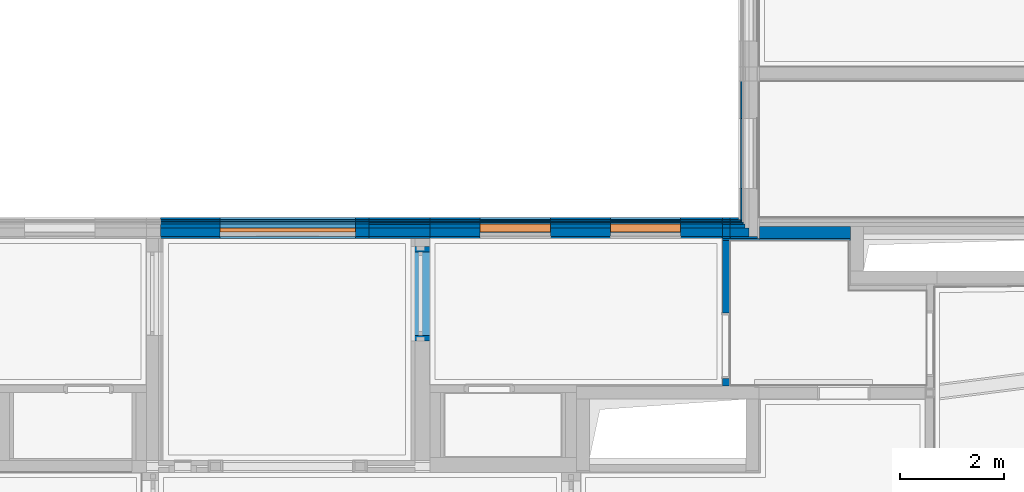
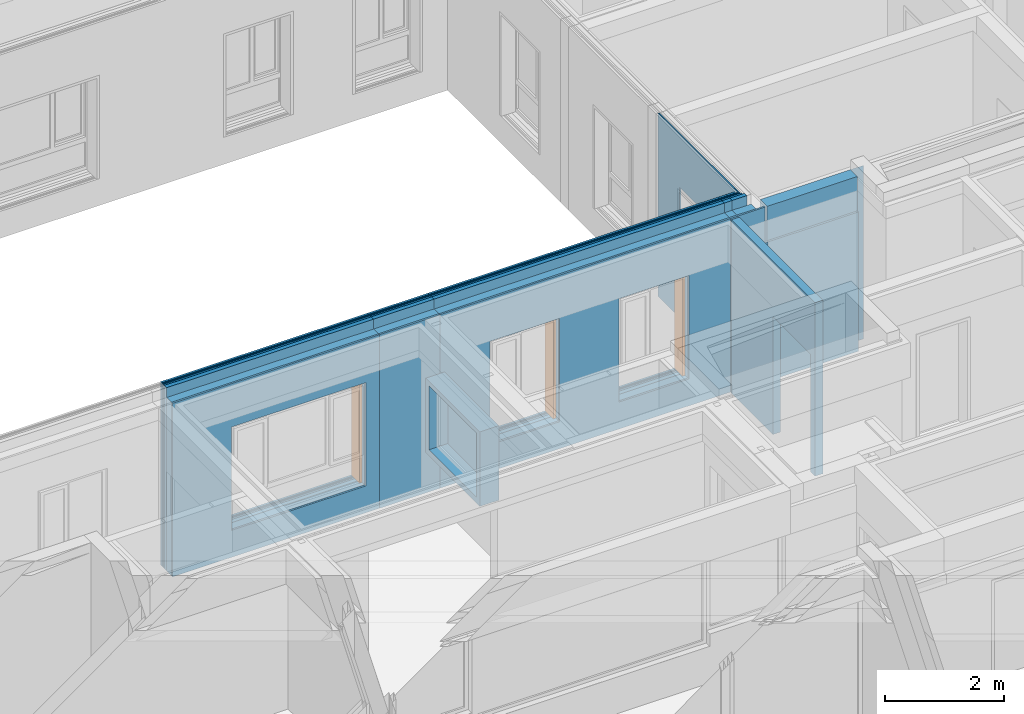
# One storey, part 31 of 222: 41 walls, 3 proxies, 24 openings.
"""IFC4 building model written with IfcOpenShell, lengths in metres."""

from ifc_helpers import new_model, entity, si_unit, converted_unit, derived_unit, frame, frame_2d, origin, origin_with_axes, place, context, subcontext, project, spatial, polyline, rectangle, outline, extrude, faceted_brep, material, element, fill, save


model = new_model("IFC4")

# Units and contexts
model_context = context("Model", 3, precision=1e-05, world=origin())
body_context = subcontext(model_context, "Body", "Model", "MODEL_VIEW")
ifc_project = project(units=[si_unit("LENGTHUNIT", "METRE"), si_unit("AREAUNIT", "SQUARE_METRE"), si_unit("VOLUMEUNIT", "CUBIC_METRE"), si_unit("MASSUNIT", "GRAM", prefix="KILO"), converted_unit("PLANEANGLEUNIT", "DEGREE", entity("IfcPlaneAngleMeasure", 0.0174532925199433), si_unit("PLANEANGLEUNIT", "RADIAN"), dimensions=[0, 0, 0, 0, 0, 0, 0]), derived_unit("THERMALTRANSMITTANCEUNIT", [(si_unit("POWERUNIT", "WATT"), 1), (si_unit("THERMODYNAMICTEMPERATUREUNIT", "KELVIN"), -1), (si_unit("LENGTHUNIT", "METRE"), -2)]), derived_unit("VOLUMETRICFLOWRATEUNIT", [(si_unit("LENGTHUNIT", "METRE"), 3), (converted_unit("TIMEUNIT", "hour", entity("IfcTimeMeasure", 3600.0), si_unit("TIMEUNIT", "SECOND"), dimensions=[0, 0, 1, 0, 0, 0, 0]), -1), (si_unit("LENGTHUNIT", "METRE"), -1)])], contexts=[model_context])

# Site, building, storey
site_placement = place(None, origin())
site = spatial("IfcSite", under=ifc_project, at=site_placement, Name="Psychiatrie Neubau Wunstorf", CompositionType="ELEMENT")
building_placement = place(site_placement, origin())
building = spatial("IfcBuilding", under=site, at=building_placement, Name="Neubau H2 Stationsgebäude", CompositionType="ELEMENT")
storey_placement = place(building_placement, frame((0.0, 0.0, 3.6)))
storey = spatial("IfcBuildingStorey", under=building, at=storey_placement, Name="H2 Ebene +1", CompositionType="ELEMENT", Elevation=3.6)

# Wall, opening
ifc_material_1 = material(Name="WA-TL")
wall_1_placement = place(storey_placement, frame((61.725000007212, 10.4499996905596, 0.0), z_axis=(0.0, 0.0, 1.0), x_axis=(2.70733614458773e-15, 1.0, 0.0)))
wall_1 = element("IfcWall", 1, at=wall_1_placement, inside=storey, material=ifc_material_1, context=body_context, shape_type="SweptSolid", body=[
    extrude(rectangle(XDim=2.68749694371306, YDim=0.024, at=frame_2d((1.34374847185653, 0.012), x_axis=(1.0, 0.0))), origin_with_axes(), (0.0, 0.0, 1.0), 3.75),
])
opening_1_placement = place(wall_1_placement, frame((1.96999694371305, 0.0239999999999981, 0.55), z_axis=(0.0, -1.0, 0.0), x_axis=(0.0, 0.0, 1.0)))
element("IfcOpeningElement", 2, at=opening_1_placement, cuts=wall_1, Name="Fensteröffnung", ObjectType="Opening", context=body_context, shape_type="SweptSolid", body=[
    extrude(outline(polyline([(2.115, 1.35), (2.115, 0.0), (0.0, 0.0), (0.0, 1.35), (2.115, 1.35)])), origin_with_axes(), (0.0, 0.0, 1.0), 0.024),
])

# Wall, openings
ifc_material_2 = material(Name="WA-LB")
wall_2_placement = place(storey_placement, frame((55.7325000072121, 10.1139996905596, 0.0)))
wall_2 = element("IfcWall", 3, at=wall_2_placement, inside=storey, material=ifc_material_2, context=body_context, shape_type="SweptSolid", body=[
    extrude(rectangle(XDim=5.61749999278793, YDim=0.036, at=frame_2d((2.80874999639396, 0.018), x_axis=(1.0, 0.0))), origin_with_axes(), (0.0, 0.0, 1.0), 3.55),
])
opening_2_placement = place(wall_2_placement, frame((2.31619999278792, 0.036, 0.55), z_axis=(0.0, -1.0, 0.0), x_axis=(0.0, 0.0, 1.0)))
element("IfcOpeningElement", 4, at=opening_2_placement, cuts=wall_2, Name="Fensteröffnung", ObjectType="Opening", context=body_context, shape_type="SweptSolid", body=[
    extrude(outline(polyline([(2.115, 1.35), (2.115, 0.0), (0.0, 0.0), (0.0, 1.35), (2.115, 1.35)])), origin_with_axes(), (0.0, 0.0, 1.0), 0.036),
])
opening_3_placement = place(wall_2_placement, frame((4.81619999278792, 0.036, 0.55), z_axis=(0.0, -1.0, 0.0), x_axis=(0.0, 0.0, 1.0)))
element("IfcOpeningElement", 5, at=opening_3_placement, cuts=wall_2, Name="Fensteröffnung", ObjectType="Opening", context=body_context, shape_type="SweptSolid", body=[
    extrude(outline(polyline([(2.115, 1.35), (2.115, 0.0), (0.0, 0.0), (0.0, 1.35), (2.115, 1.35)])), origin_with_axes(), (0.0, 0.0, 1.0), 0.036),
])

ifc_material_3 = material(Name="WA-DL")
wall_3_placement = place(storey_placement, frame((55.7325000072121, 10.1499996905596, 0.0)))
wall_3 = element("IfcWall", 6, at=wall_3_placement, inside=storey, material=ifc_material_3, context=body_context, shape_type="SweptSolid", body=[
    extrude(rectangle(XDim=5.61749999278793, YDim=0.16, at=frame_2d((2.80874999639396, 0.08), x_axis=(1.0, 0.0))), origin_with_axes(), (0.0, 0.0, 1.0), 3.55),
])
opening_4_placement = place(wall_3_placement, frame((2.31619999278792, 0.16, 0.55), z_axis=(0.0, -1.0, 0.0), x_axis=(0.0, 0.0, 1.0)))
element("IfcOpeningElement", 7, at=opening_4_placement, cuts=wall_3, Name="Fensteröffnung", ObjectType="Opening", context=body_context, shape_type="SweptSolid", body=[
    extrude(outline(polyline([(2.115, 1.35), (2.115, 0.0), (0.0, 0.0), (0.0, 1.35), (2.115, 1.35)])), origin_with_axes(), (0.0, 0.0, 1.0), 0.16),
])
opening_5_placement = place(wall_3_placement, frame((4.81619999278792, 0.16, 0.55), z_axis=(0.0, -1.0, 0.0), x_axis=(0.0, 0.0, 1.0)))
element("IfcOpeningElement", 8, at=opening_5_placement, cuts=wall_3, Name="Fensteröffnung", ObjectType="Opening", context=body_context, shape_type="SweptSolid", body=[
    extrude(outline(polyline([(2.115, 1.35), (2.115, 0.0), (0.0, 0.0), (0.0, 1.35), (2.115, 1.35)])), origin_with_axes(), (0.0, 0.0, 1.0), 0.16),
])

ifc_material_4 = material(Name="WA-DL")
wall_4_placement = place(storey_placement, frame((55.7325000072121, 10.3099996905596, 0.0)))
wall_4 = element("IfcWall", 9, at=wall_4_placement, inside=storey, material=ifc_material_4, context=body_context, shape_type="SweptSolid", body=[
    extrude(rectangle(XDim=5.61749999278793, YDim=0.08, at=frame_2d((2.80874999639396, 0.04), x_axis=(1.0, 0.0))), origin_with_axes(), (0.0, 0.0, 1.0), 3.75),
])
opening_6_placement = place(wall_4_placement, frame((2.31619999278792, 0.08, 0.55), z_axis=(0.0, -1.0, 0.0), x_axis=(0.0, 0.0, 1.0)))
element("IfcOpeningElement", 10, at=opening_6_placement, cuts=wall_4, Name="Fensteröffnung", ObjectType="Opening", context=body_context, shape_type="SweptSolid", body=[
    extrude(outline(polyline([(2.115, 1.35), (2.115, 0.0), (0.0, 0.0), (0.0, 1.35), (2.115, 1.35)])), origin_with_axes(), (0.0, 0.0, 1.0), 0.08),
])
opening_7_placement = place(wall_4_placement, frame((4.81619999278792, 0.08, 0.55), z_axis=(0.0, -1.0, 0.0), x_axis=(0.0, 0.0, 1.0)))
element("IfcOpeningElement", 11, at=opening_7_placement, cuts=wall_4, Name="Fensteröffnung", ObjectType="Opening", context=body_context, shape_type="SweptSolid", body=[
    extrude(outline(polyline([(2.115, 1.35), (2.115, 0.0), (0.0, 0.0), (0.0, 1.35), (2.115, 1.35)])), origin_with_axes(), (0.0, 0.0, 1.0), 0.08),
])

ifc_material_5 = material(Name="WA-LB")
wall_5_placement = place(storey_placement, frame((55.7325000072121, 10.3899996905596, 0.0)))
wall_5 = element("IfcWall", 12, at=wall_5_placement, inside=storey, material=ifc_material_5, context=body_context, shape_type="SweptSolid", body=[
    extrude(rectangle(XDim=5.61749999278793, YDim=0.036, at=frame_2d((2.80874999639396, 0.018), x_axis=(1.0, 0.0))), origin_with_axes(), (0.0, 0.0, 1.0), 3.75),
])
opening_8_placement = place(wall_5_placement, frame((2.31619999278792, 0.036, 0.55), z_axis=(0.0, -1.0, 0.0), x_axis=(0.0, 0.0, 1.0)))
element("IfcOpeningElement", 13, at=opening_8_placement, cuts=wall_5, Name="Fensteröffnung", ObjectType="Opening", context=body_context, shape_type="SweptSolid", body=[
    extrude(outline(polyline([(2.115, 1.35), (2.115, 0.0), (0.0, 0.0), (0.0, 1.35), (2.115, 1.35)])), origin_with_axes(), (0.0, 0.0, 1.0), 0.036),
])
opening_9_placement = place(wall_5_placement, frame((4.81619999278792, 0.036, 0.55), z_axis=(0.0, -1.0, 0.0), x_axis=(0.0, 0.0, 1.0)))
element("IfcOpeningElement", 14, at=opening_9_placement, cuts=wall_5, Name="Fensteröffnung", ObjectType="Opening", context=body_context, shape_type="SweptSolid", body=[
    extrude(outline(polyline([(2.115, 1.35), (2.115, 0.0), (0.0, 0.0), (0.0, 1.35), (2.115, 1.35)])), origin_with_axes(), (0.0, 0.0, 1.0), 0.036),
])

ifc_material_6 = material(Name="WA-KL")
wall_6_placement = place(storey_placement, frame((55.7325000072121, 10.4259996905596, 0.0)))
wall_6 = element("IfcWall", 15, at=wall_6_placement, inside=storey, material=ifc_material_6, context=body_context, shape_type="SweptSolid", body=[
    extrude(rectangle(XDim=5.61749999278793, YDim=0.024, at=frame_2d((2.80874999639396, 0.012), x_axis=(1.0, 0.0))), origin_with_axes(), (0.0, 0.0, 1.0), 3.75),
])
opening_10_placement = place(wall_6_placement, frame((2.31619999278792, 0.024, 0.55), z_axis=(0.0, -1.0, 0.0), x_axis=(0.0, 0.0, 1.0)))
element("IfcOpeningElement", 16, at=opening_10_placement, cuts=wall_6, Name="Fensteröffnung", ObjectType="Opening", context=body_context, shape_type="SweptSolid", body=[
    extrude(outline(polyline([(2.115, 1.35), (2.115, 0.0), (0.0, 0.0), (0.0, 1.35), (2.115, 1.35)])), origin_with_axes(), (0.0, 0.0, 1.0), 0.024),
])
opening_11_placement = place(wall_6_placement, frame((4.81619999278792, 0.024, 0.55), z_axis=(0.0, -1.0, 0.0), x_axis=(0.0, 0.0, 1.0)))
element("IfcOpeningElement", 17, at=opening_11_placement, cuts=wall_6, Name="Fensteröffnung", ObjectType="Opening", context=body_context, shape_type="SweptSolid", body=[
    extrude(outline(polyline([(2.115, 1.35), (2.115, 0.0), (0.0, 0.0), (0.0, 1.35), (2.115, 1.35)])), origin_with_axes(), (0.0, 0.0, 1.0), 0.024),
])

ifc_material_7 = material(Name="WA-TL")
wall_7_placement = place(storey_placement, frame((55.7325000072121, 10.4499996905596, 0.0)))
wall_7 = element("IfcWall", 18, at=wall_7_placement, inside=storey, material=ifc_material_7, context=body_context, shape_type="SweptSolid", body=[
    extrude(rectangle(XDim=5.61749999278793, YDim=0.024, at=frame_2d((2.80874999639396, 0.012), x_axis=(1.0, 0.0))), origin_with_axes(), (0.0, 0.0, 1.0), 3.75),
])
opening_12_placement = place(wall_7_placement, frame((2.31619999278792, 0.024, 0.55), z_axis=(0.0, -1.0, 0.0), x_axis=(0.0, 0.0, 1.0)))
element("IfcOpeningElement", 19, at=opening_12_placement, cuts=wall_7, Name="Fensteröffnung", ObjectType="Opening", context=body_context, shape_type="SweptSolid", body=[
    extrude(outline(polyline([(2.115, 1.35), (2.115, 0.0), (0.0, 0.0), (0.0, 1.35), (2.115, 1.35)])), origin_with_axes(), (0.0, 0.0, 1.0), 0.024),
])
opening_13_placement = place(wall_7_placement, frame((4.81619999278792, 0.024, 0.55), z_axis=(0.0, -1.0, 0.0), x_axis=(0.0, 0.0, 1.0)))
element("IfcOpeningElement", 20, at=opening_13_placement, cuts=wall_7, Name="Fensteröffnung", ObjectType="Opening", context=body_context, shape_type="SweptSolid", body=[
    extrude(outline(polyline([(2.115, 1.35), (2.115, 0.0), (0.0, 0.0), (0.0, 1.35), (2.115, 1.35)])), origin_with_axes(), (0.0, 0.0, 1.0), 0.024),
])

# Wall, openings, proxies
ifc_material_8 = material(Name="WA-HS")
wall_8_placement = place(storey_placement, frame((55.7325000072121, 10.4739996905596, 0.0)))
wall_8 = element("IfcWall", 21, at=wall_8_placement, inside=storey, material=ifc_material_8, context=body_context, shape_type="SweptSolid", body=[
    extrude(rectangle(XDim=5.61749999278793, YDim=0.042, at=frame_2d((2.80874999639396, 0.021), x_axis=(1.0, 0.0))), origin_with_axes(), (0.0, 0.0, 1.0), 3.75),
])
opening_14_placement = place(wall_8_placement, frame((2.31619999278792, 0.042, 0.55), z_axis=(0.0, -1.0, 0.0), x_axis=(0.0, 0.0, 1.0)))
opening_14 = element("IfcOpeningElement", 22, at=opening_14_placement, cuts=wall_8, Name="Fensteröffnung", ObjectType="Opening", context=body_context, shape_type="SweptSolid", body=[
    extrude(outline(polyline([(2.115, 1.35), (2.115, 0.0), (0.0, 0.0), (0.0, 1.35), (2.115, 1.35)])), origin_with_axes(), (0.0, 0.0, 1.0), 0.042),
])
opening_15_placement = place(wall_8_placement, frame((4.81619999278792, 0.042, 0.55), z_axis=(0.0, -1.0, 0.0), x_axis=(0.0, 0.0, 1.0)))
opening_15 = element("IfcOpeningElement", 23, at=opening_15_placement, cuts=wall_8, Name="Fensteröffnung", ObjectType="Opening", context=body_context, shape_type="SweptSolid", body=[
    extrude(outline(polyline([(2.115, 1.35), (2.115, 0.0), (0.0, 0.0), (0.0, 1.35), (2.115, 1.35)])), origin_with_axes(), (0.0, 0.0, 1.0), 0.042),
])
ifc_material_9 = material(Name="WA-HS")
proxy_1_placement = place(opening_14_placement, frame((0.0, 1.35, 0.275)))
proxy_1 = element("IfcBuildingElementProxy", 24, at=proxy_1_placement, inside=storey, material=ifc_material_9, context=body_context, shape_type="Brep", body=[
    faceted_brep([(0.0, 0.0, 0.0), (0.0, 0.0, -0.275), (2.115, 0.0, -0.275), (2.115, 0.0, 0.0), (2.115, -1.35, -0.275), (2.115, -1.35, 0.0), (0.0, -0.05, -0.275), (0.0, -0.05, 0.0), (0.0, -1.35, 0.0), (0.0, -1.3, 0.0), (2.065, -1.3, 0.0), (2.065, -0.05, 0.0), (2.065, -0.05, -0.275), (2.065, -1.3, -0.275), (0.0, -1.3, -0.275), (0.0, -1.35, -0.275)], [[[0, 1, 2, 3]], [[2, 4, 5, 3]], [[6, 1, 0, 7]], [[7, 0, 3, 5, 8, 9, 10, 11]], [[1, 6, 12, 13, 14, 15, 4, 2]], [[6, 7, 11, 12]], [[15, 8, 5, 4]], [[15, 14, 9, 8]], [[9, 14, 13, 10]], [[10, 13, 12, 11]]], orient=[[False], [False], [False], [False], [False], [False], [False], [False], [False], [False]]),
])
fill(opening_14, proxy_1)
ifc_material_10 = material(Name="WA-HS")
proxy_2_placement = place(opening_15_placement, frame((0.0, 1.35, 0.275)))
proxy_2 = element("IfcBuildingElementProxy", 25, at=proxy_2_placement, inside=storey, material=ifc_material_10, context=body_context, shape_type="Brep", body=[
    faceted_brep([(0.0, 0.0, 0.0), (0.0, 0.0, -0.275), (2.115, 0.0, -0.275), (2.115, 0.0, 0.0), (2.115, -1.35, -0.275), (2.115, -1.35, 0.0), (0.0, -0.05, -0.275), (0.0, -0.05, 0.0), (0.0, -1.35, 0.0), (0.0, -1.3, 0.0), (2.065, -1.3, 0.0), (2.065, -0.05, 0.0), (2.065, -0.05, -0.275), (2.065, -1.3, -0.275), (0.0, -1.3, -0.275), (0.0, -1.35, -0.275)], [[[0, 1, 2, 3]], [[2, 4, 5, 3]], [[6, 1, 0, 7]], [[7, 0, 3, 5, 8, 9, 10, 11]], [[1, 6, 12, 13, 14, 15, 4, 2]], [[6, 7, 11, 12]], [[15, 8, 5, 4]], [[15, 14, 9, 8]], [[9, 14, 13, 10]], [[10, 13, 12, 11]]], orient=[[False], [False], [False], [False], [False], [False], [False], [False], [False], [False]]),
])
fill(opening_15, proxy_2)

# Walls
ifc_material_11 = material(Name="WA-LB")
wall_9_placement = place(storey_placement, frame((61.3500000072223, 10.1139996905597, 0.0), z_axis=(0.0, 0.0, 1.0), x_axis=(1.0, -3.63797880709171e-14, 0.0)))
element("IfcWall", 26, at=wall_9_placement, inside=storey, material=ifc_material_11, Name="2x Gipsfaserplatte", context=body_context, shape_type="SweptSolid", body=[
    extrude(rectangle(XDim=0.15, YDim=0.036, at=frame_2d((0.075, 0.018), x_axis=(1.0, 0.0))), origin_with_axes(), (0.0, 0.0, 1.0), 3.55),
])
ifc_material_12 = material(Name="WA-DL")
wall_10_placement = place(storey_placement, frame((61.3500000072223, 10.1499996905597, 0.0), z_axis=(0.0, 0.0, 1.0), x_axis=(1.0, -3.63797880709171e-14, 0.0)))
element("IfcWall", 27, at=wall_10_placement, inside=storey, material=ifc_material_12, Name="Holzständer + Zwischendämmung", context=body_context, shape_type="SweptSolid", body=[
    extrude(rectangle(XDim=0.15, YDim=0.16, at=frame_2d((0.075, 0.08), x_axis=(1.0, 0.0))), origin_with_axes(), (0.0, 0.0, 1.0), 3.55),
])
ifc_material_13 = material(Name="WA-DL")
wall_11_placement = place(storey_placement, frame((61.3500000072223, 10.3099996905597, 0.0), z_axis=(0.0, 0.0, 1.0), x_axis=(1.0, -3.63797880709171e-14, 0.0)))
element("IfcWall", 28, at=wall_11_placement, inside=storey, material=ifc_material_13, Name="Staffel + Zwischendämmung", context=body_context, shape_type="SweptSolid", body=[
    extrude(rectangle(XDim=0.15, YDim=0.08, at=frame_2d((0.075, 0.04), x_axis=(1.0, 0.0))), origin_with_axes(), (0.0, 0.0, 1.0), 3.75),
])
ifc_material_14 = material(Name="WA-LB")
wall_12_placement = place(storey_placement, frame((61.3500000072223, 10.3899996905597, 0.0), z_axis=(0.0, 0.0, 1.0), x_axis=(1.0, -3.63797880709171e-14, 0.0)))
element("IfcWall", 29, at=wall_12_placement, inside=storey, material=ifc_material_14, context=body_context, shape_type="SweptSolid", body=[
    extrude(rectangle(XDim=0.15, YDim=0.036, at=frame_2d((0.075, 0.018), x_axis=(1.0, 0.0))), origin_with_axes(), (0.0, 0.0, 1.0), 3.75),
])
ifc_material_15 = material(Name="WA-KL")
wall_13_placement = place(storey_placement, frame((61.3500000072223, 10.4259996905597, 0.0), z_axis=(0.0, 0.0, 1.0), x_axis=(1.0, -3.63797880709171e-14, 0.0)))
element("IfcWall", 30, at=wall_13_placement, inside=storey, material=ifc_material_15, Name="Konterlattung", context=body_context, shape_type="SweptSolid", body=[
    extrude(rectangle(XDim=0.15, YDim=0.024, at=frame_2d((0.075, 0.012), x_axis=(1.0, 0.0))), origin_with_axes(), (0.0, 0.0, 1.0), 3.75),
])
ifc_material_16 = material(Name="WA-TL")
wall_14_placement = place(storey_placement, frame((61.3500000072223, 10.4499996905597, 0.0), z_axis=(0.0, 0.0, 1.0), x_axis=(1.0, -3.63797880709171e-14, 0.0)))
element("IfcWall", 31, at=wall_14_placement, inside=storey, material=ifc_material_16, Name="Traglattung", context=body_context, shape_type="SweptSolid", body=[
    extrude(rectangle(XDim=0.15, YDim=0.024, at=frame_2d((0.075, 0.012), x_axis=(1.0, 0.0))), origin_with_axes(), (0.0, 0.0, 1.0), 3.75),
])
ifc_material_17 = material(Name="WA-HS")
wall_15_placement = place(storey_placement, frame((61.3500000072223, 10.4739996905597, 0.0), z_axis=(0.0, 0.0, 1.0), x_axis=(1.0, -3.63797880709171e-14, 0.0)))
element("IfcWall", 32, at=wall_15_placement, inside=storey, material=ifc_material_17, Name="Holzschindel", context=body_context, shape_type="SweptSolid", body=[
    extrude(rectangle(XDim=0.15, YDim=0.042, at=frame_2d((0.075, 0.021), x_axis=(1.0, 0.0))), origin_with_axes(), (0.0, 0.0, 1.0), 3.75),
])

# Wall, opening
ifc_material_18 = material(Name="WA-LB")
wall_16_placement = place(storey_placement, frame((50.5580000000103, 10.1139996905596, 0.0)))
wall_16 = element("IfcWall", 33, at=wall_16_placement, inside=storey, material=ifc_material_18, context=body_context, shape_type="SweptSolid", body=[
    extrude(rectangle(XDim=4.00450000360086, YDim=0.036, at=frame_2d((2.00225000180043, 0.018), x_axis=(1.0, 0.0))), origin_with_axes(), (0.0, 0.0, 1.0), 3.55),
])
opening_16_placement = place(wall_16_placement, frame((3.74067714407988, 0.036, 0.55), z_axis=(0.0, -1.0, 0.0), x_axis=(0.0, 0.0, 1.0)))
element("IfcOpeningElement", 34, at=opening_16_placement, cuts=wall_16, Name="Fensteröffnung", ObjectType="Opening", context=body_context, shape_type="SweptSolid", body=[
    extrude(outline(polyline([(2.115, 2.6), (2.115, 0.0), (0.0, 0.0), (0.0, 2.6), (2.115, 2.6)])), origin_with_axes(), (0.0, 0.0, 1.0), 0.036),
])

ifc_material_19 = material(Name="WA-DL")
wall_17_placement = place(storey_placement, frame((50.5580000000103, 10.1499996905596, 0.0)))
wall_17 = element("IfcWall", 35, at=wall_17_placement, inside=storey, material=ifc_material_19, context=body_context, shape_type="SweptSolid", body=[
    extrude(rectangle(XDim=4.00450000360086, YDim=0.16, at=frame_2d((2.00225000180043, 0.08), x_axis=(1.0, 0.0))), origin_with_axes(), (0.0, 0.0, 1.0), 3.55),
])
opening_17_placement = place(wall_17_placement, frame((3.74067714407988, 0.16, 0.55), z_axis=(0.0, -1.0, 0.0), x_axis=(0.0, 0.0, 1.0)))
element("IfcOpeningElement", 36, at=opening_17_placement, cuts=wall_17, Name="Fensteröffnung", ObjectType="Opening", context=body_context, shape_type="SweptSolid", body=[
    extrude(outline(polyline([(2.115, 2.6), (2.115, 0.0), (0.0, 0.0), (0.0, 2.6), (2.115, 2.6)])), origin_with_axes(), (0.0, 0.0, 1.0), 0.16),
])

ifc_material_20 = material(Name="WA-DL")
wall_18_placement = place(storey_placement, frame((50.5580000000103, 10.3099996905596, 0.0)))
wall_18 = element("IfcWall", 37, at=wall_18_placement, inside=storey, material=ifc_material_20, context=body_context, shape_type="SweptSolid", body=[
    extrude(rectangle(XDim=4.00450000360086, YDim=0.08, at=frame_2d((2.00225000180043, 0.04), x_axis=(1.0, 0.0))), origin_with_axes(), (0.0, 0.0, 1.0), 3.75),
])
opening_18_placement = place(wall_18_placement, frame((3.74067714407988, 0.08, 0.55), z_axis=(0.0, -1.0, 0.0), x_axis=(0.0, 0.0, 1.0)))
element("IfcOpeningElement", 38, at=opening_18_placement, cuts=wall_18, Name="Fensteröffnung", ObjectType="Opening", context=body_context, shape_type="SweptSolid", body=[
    extrude(outline(polyline([(2.115, 2.6), (2.115, 0.0), (0.0, 0.0), (0.0, 2.6), (2.115, 2.6)])), origin_with_axes(), (0.0, 0.0, 1.0), 0.08),
])

ifc_material_21 = material(Name="WA-LB")
wall_19_placement = place(storey_placement, frame((50.5580000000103, 10.3899996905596, 0.0)))
wall_19 = element("IfcWall", 39, at=wall_19_placement, inside=storey, material=ifc_material_21, context=body_context, shape_type="SweptSolid", body=[
    extrude(rectangle(XDim=4.00450000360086, YDim=0.036, at=frame_2d((2.00225000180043, 0.018), x_axis=(1.0, 0.0))), origin_with_axes(), (0.0, 0.0, 1.0), 3.75),
])
opening_19_placement = place(wall_19_placement, frame((3.74067714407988, 0.036, 0.55), z_axis=(0.0, -1.0, 0.0), x_axis=(0.0, 0.0, 1.0)))
element("IfcOpeningElement", 40, at=opening_19_placement, cuts=wall_19, Name="Fensteröffnung", ObjectType="Opening", context=body_context, shape_type="SweptSolid", body=[
    extrude(outline(polyline([(2.115, 2.6), (2.115, 0.0), (0.0, 0.0), (0.0, 2.6), (2.115, 2.6)])), origin_with_axes(), (0.0, 0.0, 1.0), 0.036),
])

ifc_material_22 = material(Name="WA-KL")
wall_20_placement = place(storey_placement, frame((50.5580000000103, 10.4259996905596, 0.0)))
wall_20 = element("IfcWall", 41, at=wall_20_placement, inside=storey, material=ifc_material_22, context=body_context, shape_type="SweptSolid", body=[
    extrude(rectangle(XDim=4.00450000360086, YDim=0.024, at=frame_2d((2.00225000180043, 0.012), x_axis=(1.0, 0.0))), origin_with_axes(), (0.0, 0.0, 1.0), 3.75),
])
opening_20_placement = place(wall_20_placement, frame((3.74067714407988, 0.024, 0.55), z_axis=(0.0, -1.0, 0.0), x_axis=(0.0, 0.0, 1.0)))
element("IfcOpeningElement", 42, at=opening_20_placement, cuts=wall_20, Name="Fensteröffnung", ObjectType="Opening", context=body_context, shape_type="SweptSolid", body=[
    extrude(outline(polyline([(2.115, 2.6), (2.115, 0.0), (0.0, 0.0), (0.0, 2.6), (2.115, 2.6)])), origin_with_axes(), (0.0, 0.0, 1.0), 0.024),
])

ifc_material_23 = material(Name="WA-TL")
wall_21_placement = place(storey_placement, frame((50.5580000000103, 10.4499996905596, 0.0)))
wall_21 = element("IfcWall", 43, at=wall_21_placement, inside=storey, material=ifc_material_23, context=body_context, shape_type="SweptSolid", body=[
    extrude(rectangle(XDim=4.00450000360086, YDim=0.024, at=frame_2d((2.00225000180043, 0.012), x_axis=(1.0, 0.0))), origin_with_axes(), (0.0, 0.0, 1.0), 3.75),
])
opening_21_placement = place(wall_21_placement, frame((3.74067714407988, 0.024, 0.55), z_axis=(0.0, -1.0, 0.0), x_axis=(0.0, 0.0, 1.0)))
element("IfcOpeningElement", 44, at=opening_21_placement, cuts=wall_21, Name="Fensteröffnung", ObjectType="Opening", context=body_context, shape_type="SweptSolid", body=[
    extrude(outline(polyline([(2.115, 2.6), (2.115, 0.0), (0.0, 0.0), (0.0, 2.6), (2.115, 2.6)])), origin_with_axes(), (0.0, 0.0, 1.0), 0.024),
])

# Wall, opening, proxy
ifc_material_24 = material(Name="WA-HS")
wall_22_placement = place(storey_placement, frame((50.5580000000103, 10.4739996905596, 0.0)))
wall_22 = element("IfcWall", 45, at=wall_22_placement, inside=storey, material=ifc_material_24, context=body_context, shape_type="SweptSolid", body=[
    extrude(rectangle(XDim=4.00450000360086, YDim=0.042, at=frame_2d((2.00225000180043, 0.021), x_axis=(1.0, 0.0))), origin_with_axes(), (0.0, 0.0, 1.0), 3.75),
])
opening_22_placement = place(wall_22_placement, frame((3.74067714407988, 0.042, 0.55), z_axis=(0.0, -1.0, 0.0), x_axis=(0.0, 0.0, 1.0)))
opening_22 = element("IfcOpeningElement", 46, at=opening_22_placement, cuts=wall_22, Name="Fensteröffnung", ObjectType="Opening", context=body_context, shape_type="SweptSolid", body=[
    extrude(outline(polyline([(2.115, 2.6), (2.115, 0.0), (0.0, 0.0), (0.0, 2.6), (2.115, 2.6)])), origin_with_axes(), (0.0, 0.0, 1.0), 0.042),
])
ifc_material_25 = material(Name="WA-HS")
proxy_3_placement = place(opening_22_placement, frame((0.0, 2.6, 0.275)))
proxy_3 = element("IfcBuildingElementProxy", 47, at=proxy_3_placement, inside=storey, material=ifc_material_25, context=body_context, shape_type="Brep", body=[
    faceted_brep([(0.0, 0.0, 0.0), (0.0, 0.0, -0.275), (2.115, 0.0, -0.275), (2.115, 0.0, 0.0), (2.115, -2.6, -0.275), (2.115, -2.6, 0.0), (0.0, -0.05, -0.275), (0.0, -0.05, 0.0), (0.0, -2.6, 0.0), (0.0, -2.55, 0.0), (2.065, -2.55, 0.0), (2.065, -0.05, 0.0), (2.065, -0.05, -0.275), (2.065, -2.55, -0.275), (0.0, -2.55, -0.275), (0.0, -2.6, -0.275)], [[[0, 1, 2, 3]], [[2, 4, 5, 3]], [[6, 1, 0, 7]], [[7, 0, 3, 5, 8, 9, 10, 11]], [[1, 6, 12, 13, 14, 15, 4, 2]], [[6, 7, 11, 12]], [[15, 8, 5, 4]], [[15, 14, 9, 8]], [[9, 14, 13, 10]], [[10, 13, 12, 11]]], orient=[[False], [False], [False], [False], [False], [False], [False], [False], [False], [False]]),
])
fill(opening_22, proxy_3)

# Walls
ifc_material_26 = material(Name="WA-LB")
wall_23_placement = place(storey_placement, frame((61.5000000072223, 10.1139996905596, 0.0)))
element("IfcWall", 48, at=wall_23_placement, inside=storey, material=ifc_material_26, context=body_context, shape_type="SweptSolid", body=[
    extrude(rectangle(XDim=0.524999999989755, YDim=0.036, at=frame_2d((0.262499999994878, 0.018), x_axis=(1.0, 0.0))), origin_with_axes(), (0.0, 0.0, 1.0), 3.55),
])
ifc_material_27 = material(Name="WA-DL")
wall_24_placement = place(storey_placement, frame((61.5000000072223, 10.1499996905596, 0.0)))
element("IfcWall", 49, at=wall_24_placement, inside=storey, material=ifc_material_27, context=body_context, shape_type="SweptSolid", body=[
    extrude(rectangle(XDim=0.364999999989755, YDim=0.16, at=frame_2d((0.182499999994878, 0.08), x_axis=(1.0, 0.0))), origin_with_axes(), (0.0, 0.0, 1.0), 3.55),
])
ifc_material_28 = material(Name="WA-DL")
wall_25_placement = place(storey_placement, frame((61.5000000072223, 10.3099996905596, 0.0)))
element("IfcWall", 50, at=wall_25_placement, inside=storey, material=ifc_material_28, context=body_context, shape_type="SweptSolid", body=[
    extrude(rectangle(XDim=0.284999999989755, YDim=0.08, at=frame_2d((0.142499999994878, 0.04), x_axis=(1.0, 0.0))), origin_with_axes(), (0.0, 0.0, 1.0), 3.75),
])
ifc_material_29 = material(Name="WA-LB")
wall_26_placement = place(storey_placement, frame((61.5000000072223, 10.3899996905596, 0.0)))
element("IfcWall", 51, at=wall_26_placement, inside=storey, material=ifc_material_29, context=body_context, shape_type="SweptSolid", body=[
    extrude(rectangle(XDim=0.248999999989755, YDim=0.036, at=frame_2d((0.124499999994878, 0.018), x_axis=(1.0, 0.0))), origin_with_axes(), (0.0, 0.0, 1.0), 3.75),
])
ifc_material_30 = material(Name="WA-KL")
wall_27_placement = place(storey_placement, frame((61.5000000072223, 10.4259996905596, 0.0)))
element("IfcWall", 52, at=wall_27_placement, inside=storey, material=ifc_material_30, context=body_context, shape_type="SweptSolid", body=[
    extrude(rectangle(XDim=0.224999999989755, YDim=0.024, at=frame_2d((0.112499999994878, 0.012), x_axis=(1.0, 0.0))), origin_with_axes(), (0.0, 0.0, 1.0), 3.75),
])
ifc_material_31 = material(Name="WA-TL")
wall_28_placement = place(storey_placement, frame((61.5000000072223, 10.4499996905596, 0.0)))
element("IfcWall", 53, at=wall_28_placement, inside=storey, material=ifc_material_31, context=body_context, shape_type="SweptSolid", body=[
    extrude(rectangle(XDim=0.200999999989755, YDim=0.024, at=frame_2d((0.100499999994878, 0.012), x_axis=(1.0, 0.0))), origin_with_axes(), (0.0, 0.0, 1.0), 3.75),
])
ifc_material_32 = material(Name="WA-HS")
wall_29_placement = place(storey_placement, frame((61.5000000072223, 10.4739996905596, 0.0)))
element("IfcWall", 54, at=wall_29_placement, inside=storey, material=ifc_material_32, context=body_context, shape_type="SweptSolid", body=[
    extrude(rectangle(XDim=0.158999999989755, YDim=0.042, at=frame_2d((0.0794999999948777, 0.021), x_axis=(1.0, 0.0))), origin_with_axes(), (0.0, 0.0, 1.0), 3.75),
])
ifc_material_33 = material(Name="WA-LB")
wall_30_placement = place(storey_placement, frame((54.5625000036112, 10.1139996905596, 0.0)))
element("IfcWall", 55, at=wall_30_placement, inside=storey, material=ifc_material_33, Name="2x Gipsfaserplatte", context=body_context, shape_type="SweptSolid", body=[
    extrude(rectangle(XDim=1.17000000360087, YDim=0.036, at=frame_2d((0.585000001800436, 0.018), x_axis=(1.0, 0.0))), origin_with_axes(), (0.0, 0.0, 1.0), 3.55),
])
ifc_material_34 = material(Name="WA-DL")
wall_31_placement = place(storey_placement, frame((54.5625000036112, 10.1499996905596, 0.0)))
element("IfcWall", 56, at=wall_31_placement, inside=storey, material=ifc_material_34, Name="Holzständer + Zwischendämmung", context=body_context, shape_type="SweptSolid", body=[
    extrude(rectangle(XDim=1.17000000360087, YDim=0.16, at=frame_2d((0.585000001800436, 0.08), x_axis=(1.0, 0.0))), origin_with_axes(), (0.0, 0.0, 1.0), 3.55),
])
ifc_material_35 = material(Name="WA-DL")
wall_32_placement = place(storey_placement, frame((54.5625000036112, 10.3099996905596, 0.0)))
element("IfcWall", 57, at=wall_32_placement, inside=storey, material=ifc_material_35, Name="Staffel + Zwischendämmung", context=body_context, shape_type="SweptSolid", body=[
    extrude(rectangle(XDim=1.17000000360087, YDim=0.08, at=frame_2d((0.585000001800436, 0.04), x_axis=(1.0, 0.0))), origin_with_axes(), (0.0, 0.0, 1.0), 3.75),
])
ifc_material_36 = material(Name="WA-LB")
wall_33_placement = place(storey_placement, frame((54.5625000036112, 10.3899996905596, 0.0)))
element("IfcWall", 58, at=wall_33_placement, inside=storey, material=ifc_material_36, context=body_context, shape_type="SweptSolid", body=[
    extrude(rectangle(XDim=1.17000000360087, YDim=0.036, at=frame_2d((0.585000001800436, 0.018), x_axis=(1.0, 0.0))), origin_with_axes(), (0.0, 0.0, 1.0), 3.75),
])
ifc_material_37 = material(Name="WA-KL")
wall_34_placement = place(storey_placement, frame((54.5625000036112, 10.4259996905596, 0.0)))
element("IfcWall", 59, at=wall_34_placement, inside=storey, material=ifc_material_37, Name="Konterlattung", context=body_context, shape_type="SweptSolid", body=[
    extrude(rectangle(XDim=1.17000000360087, YDim=0.024, at=frame_2d((0.585000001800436, 0.012), x_axis=(1.0, 0.0))), origin_with_axes(), (0.0, 0.0, 1.0), 3.75),
])
ifc_material_38 = material(Name="WA-TL")
wall_35_placement = place(storey_placement, frame((54.5625000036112, 10.4499996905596, 0.0)))
element("IfcWall", 60, at=wall_35_placement, inside=storey, material=ifc_material_38, Name="Traglattung", context=body_context, shape_type="SweptSolid", body=[
    extrude(rectangle(XDim=1.17000000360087, YDim=0.024, at=frame_2d((0.585000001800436, 0.012), x_axis=(1.0, 0.0))), origin_with_axes(), (0.0, 0.0, 1.0), 3.75),
])
ifc_material_39 = material(Name="WA-HS")
wall_36_placement = place(storey_placement, frame((54.5625000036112, 10.4739996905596, 0.0)))
element("IfcWall", 61, at=wall_36_placement, inside=storey, material=ifc_material_39, Name="Holzschindel", context=body_context, shape_type="SweptSolid", body=[
    extrude(rectangle(XDim=1.17000000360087, YDim=0.042, at=frame_2d((0.585000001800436, 0.021), x_axis=(1.0, 0.0))), origin_with_axes(), (0.0, 0.0, 1.0), 3.75),
])
ifc_material_40 = material(Name="WI-IW")
wall_37_placement = place(storey_placement, frame((61.35, 10.0739996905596, 0.0)))
element("IfcWall", 62, at=wall_37_placement, inside=storey, material=ifc_material_40, context=body_context, shape_type="SweptSolid", body=[
    extrude(rectangle(XDim=0.711000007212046, YDim=0.04, at=frame_2d((0.355500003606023, 0.02), x_axis=(1.0, 0.0))), origin_with_axes(), (0.0, 0.0, 1.0), 2.85),
])
ifc_material_41 = material(Name="WI-HW 60")
wall_38_placement = place(storey_placement, frame((64.0600000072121, 10.3459996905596, 0.0), z_axis=(0.0, 0.0, 1.0), x_axis=(-1.0, 0.0, 0.0)))
element("IfcWall", 63, at=wall_38_placement, inside=storey, material=ifc_material_41, context=body_context, shape_type="SweptSolid", body=[
    extrude(rectangle(XDim=1.749, YDim=0.232, at=frame_2d((0.8745, 0.116), x_axis=(1.0, 0.0))), frame((0.25, 0.0, 0.0), z_axis=(0.0, 0.0, 1.0), x_axis=(1.0, 0.0, 0.0)), (0.0, 0.0, 1.0), 3.55),
    extrude(outline(polyline([(-0.25, -2.2644411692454e-06), (0.0, -2.6585630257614e-07), (-0.25, 0.0), (-0.25, -2.2644411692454e-06)])), frame((0.25, 2.2644411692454e-06, 0.0), z_axis=(0.0, 0.0, 1.0), x_axis=(1.0, 0.0, 0.0)), (0.0, 0.0, 1.0), 3.55),
])
ifc_material_42 = material(Name="WI-LB")
wall_39_placement = place(storey_placement, frame((63.810000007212, 10.1139996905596, 0.0), z_axis=(0.0, 0.0, 1.0), x_axis=(-1.0, 0.0, 0.0)))
element("IfcWall", 64, at=wall_39_placement, inside=storey, material=ifc_material_42, context=body_context, shape_type="SweptSolid", body=[
    extrude(rectangle(XDim=1.749, YDim=0.04, at=frame_2d((0.8745, 0.02), x_axis=(1.0, 0.0))), origin_with_axes(), (0.0, 0.0, 1.0), 2.85),
])

# Wall, opening
ifc_material_43 = material(Name="WI-LB")
wall_40_placement = place(storey_placement, frame((61.35, 10.0739996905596, 0.0), z_axis=(0.0, 0.0, 1.0), x_axis=(0.0, -1.0, 0.0)))
wall_40 = element("IfcWall", 65, at=wall_40_placement, inside=storey, material=ifc_material_43, context=body_context, shape_type="SweptSolid", body=[
    extrude(rectangle(XDim=2.799, YDim=0.15, at=frame_2d((1.3995, 0.075), x_axis=(1.0, 0.0))), origin_with_axes(), (0.0, 0.0, 1.0), 3.55),
])
opening_23_placement = place(wall_40_placement, frame((2.649, 0.15, 0.0), z_axis=(0.0, -1.0, 0.0), x_axis=(0.0, 0.0, 1.0)))
element("IfcOpeningElement", 66, at=opening_23_placement, cuts=wall_40, Name="Türöffnung", ObjectType="Opening", context=body_context, shape_type="SweptSolid", body=[
    extrude(outline(polyline([(2.41, 1.26), (2.41, 0.0), (0.0, 0.0), (0.0, 1.26), (2.41, 1.26)])), origin_with_axes(), (0.0, 0.0, 1.0), 0.15),
])

ifc_material_44 = material(Name="WI-LW 60")
wall_41_placement = place(storey_placement, frame((55.3675000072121, 9.95899969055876, 0.95), z_axis=(0.0, 0.0, 1.0), x_axis=(0.0, -1.0, 0.0)))
wall_41 = element("IfcWall", 67, at=wall_41_placement, inside=storey, material=ifc_material_44, context=body_context, shape_type="SweptSolid", body=[
    extrude(rectangle(XDim=1.815, YDim=0.365, at=frame_2d((0.9075, 0.1825), x_axis=(1.0, 0.0))), origin_with_axes(), (0.0, 0.0, 1.0), 1.525),
])
opening_24_placement = place(wall_41_placement, frame((0.1075, 0.0, 0.125), z_axis=(0.0, 1.0, 0.0), x_axis=(0.0, 0.0, 1.0)))
element("IfcOpeningElement", 68, at=opening_24_placement, cuts=wall_41, Name="Fensteröffnung", ObjectType="Opening", context=body_context, shape_type="SweptSolid", body=[
    extrude(outline(polyline([(1.31, 1.6), (1.31, 0.0), (0.0, 0.0), (0.0, 1.6), (1.31, 1.6)])), origin_with_axes(), (0.0, 0.0, 1.0), 0.365),
])

save(model, "model.ifc")
